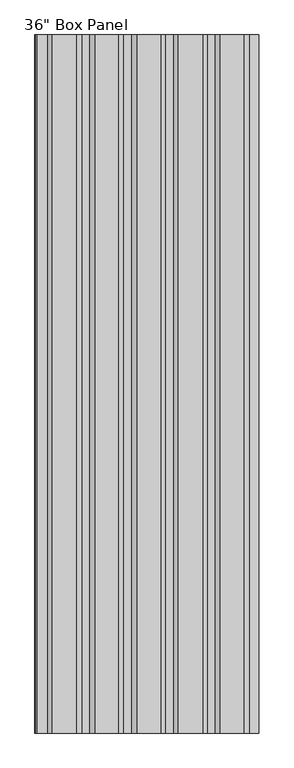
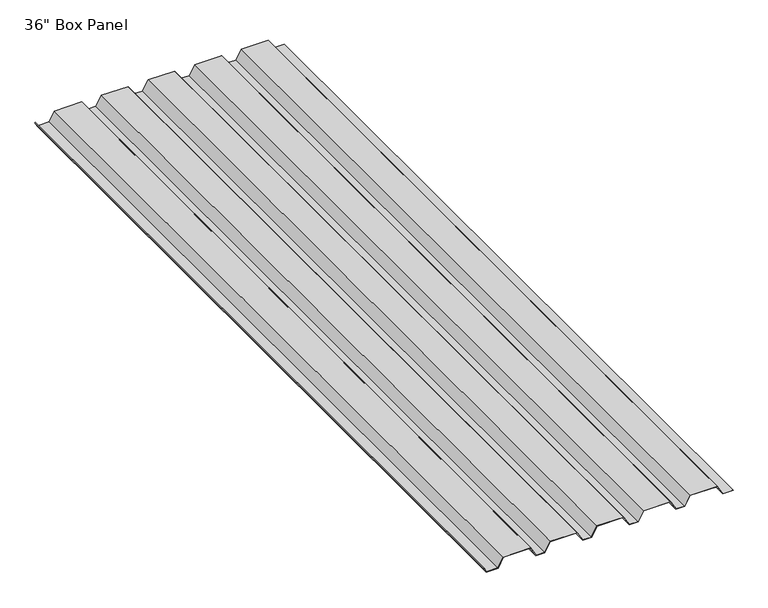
"""IFC4 building model written with IfcOpenShell, lengths in millimetres: proxy geometry."""

from ifc_helpers import new_model, si_unit, frame, origin, place, context, project, spatial, polyline, outline, extrude, source, transform, mapped, element, save


def proxy_b7d9e8bd(model_context):
    return source(origin(), model_context, "Body", "SweptSolid", [
        extrude(outline(polyline([(38.1, 417.8382291), (0.0, 439.8731149), (0.0, 480.8472026), (1.16586, 480.8472026), (1.16586, 440.5456459), (39.26586, 418.5107601), (39.26586, 313.1646223), (1.16586, 291.1675771), (1.16586, 257.5893937), (39.26586, 235.5923485), (39.26586, 130.2456321), (1.16586, 108.2485868), (1.16586, 74.6704035), (39.26586, 52.6733582), (39.26586, -52.6733582), (1.16586, -74.6704035), (1.16586, -108.2485868), (39.26586, -130.2456321), (39.26586, -235.5923485), (1.190625, -257.5750956), (1.190625, -291.1818751), (39.26586, -313.1646223), (39.26586, -420.6000666), (1.16586, -440.8581959), (1.16586, -485.8522198), (18.6965395, -495.1838497), (18.1487254, -496.2129898), (0.0, -486.5523723), (0.0, -440.1296285), (38.1, -419.8714991), (38.1, -313.8377319), (0.0, -291.8406866), (0.0, -256.9162841), (38.1, -234.9192389), (38.1, -130.9187416), (0.0, -108.9216964), (0.0, -73.9972939), (38.1, -52.0002486), (38.1, 52.0002486), (0.0, 73.9972939), (0.0, 108.9216964), (38.1, 130.9187416), (38.1, 234.9192389), (0.0, 256.9162841), (0.0, 291.8406866), (38.1, 313.8377319), (38.1, 417.8382291)])), frame((0.0, -3048.0, 0.0), z_axis=(0.0, 1.0, 0.0), x_axis=(0.0, 0.0, 1.0)), (0.0, 0.0, 1.0), 3048.0),
    ])


if __name__ == "__main__":
    model = new_model("IFC4")
    model_context = context("Model", 3, world=origin())
    ifc_project = project(units=[si_unit("LENGTHUNIT", "METRE", prefix="MILLI")], contexts=[model_context])
    site = spatial("IfcSite", under=ifc_project)
    building = spatial("IfcBuilding", under=site)
    placement = place(None, origin())
    proxy_shape = proxy_b7d9e8bd(model_context)
    element("IfcBuildingElementProxy", 1, Name="Metal_Siding_Box-Panel_Steelscape : 36\" Box Panel", ObjectType="Metal_Siding_Box-Panel_Steelscape : 36\" Box Panel", at=placement, inside=building, context=model_context, shape_type="MappedRepresentation", body=[
        mapped(proxy_shape, transform((0.0, 0.0, 0.0), x_axis=(1.0, 0.0, 0.0), y_axis=(0.0, 1.0, 0.0), z_axis=(0.0, 0.0, 1.0))),
    ])
    save(model, "model.ifc")
